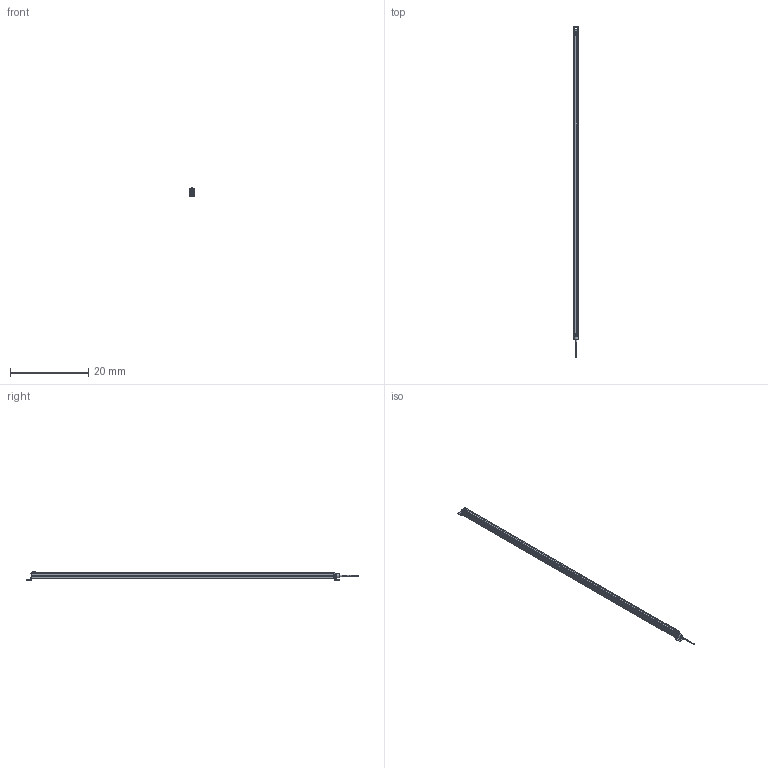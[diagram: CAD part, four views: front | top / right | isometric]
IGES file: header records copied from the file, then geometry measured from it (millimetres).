
Start section:  Autodesk DirectConnect version 7.0.27.0 ---- IGES version 5.3
Global section: file name: C:\ACADFILES\MG_PYLONS\CUSTOMER_FILES\MG-76-PYLON_3D_L.iges; native system: Autodesk DirectConnect 7.0.27.0; preprocessor: 7.0.27.0; author: ENGINEERMAIN; organization: Unknown; date: 20150810.143412; units: millimetre
Bounding box: 1.46 x 84.85 x 2.11 mm (x, y, z)
Surface area: 1145.6 mm2 (no closed solid volume)
Topology: 0 solids, 0 shells, 630 faces, 3369 edges, 3383 vertices
Faces by surface type: bspline 630
